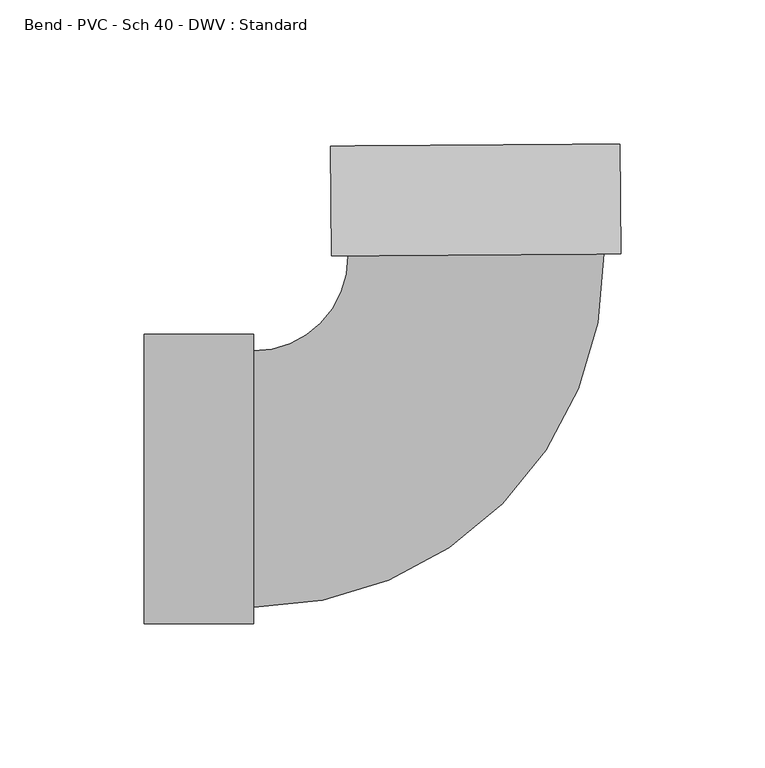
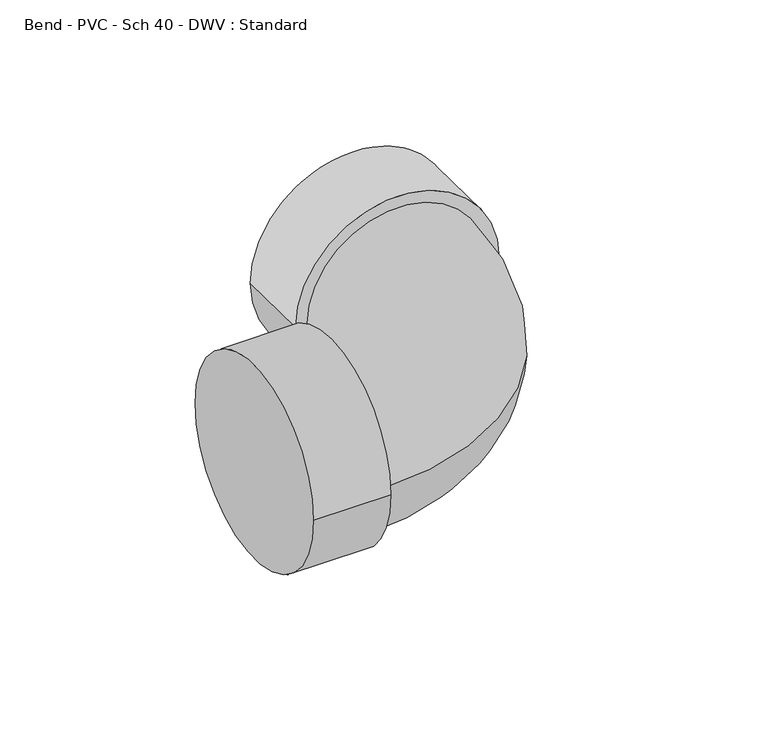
"""IFC4 building model written with IfcOpenShell, lengths in millimetres: pipe fitting geometry, Bend - PVC - Sch 40 - DWV : Standard."""

from ifc_helpers import new_model, si_unit, point, frame, origin, place, context, project, spatial, circle_curve, ellipse_curve, trimmed, source, transform, mapped, element, save
from ifc_brep_helpers import plane_surface, cylinder_surface, revolved_surface, advanced_brep


def bend_pvc_sch_40_dwv_standard_dc84db8a(model_context):
    return source(origin(), model_context, "Body", "AdvancedBrep", [
        advanced_brep(
        [(-115.9002, -50.2666, 0.0), (-115.9002, 50.2666, 0.0), (-77.8002, -50.2666, 0.0), (-77.8002, 50.2666, 0.0), (-77.8002, -44.45, 0.0), (-77.8002, 44.45, 0.0), (-45.0102782, 77.4774062, 0.0), (43.887407, 78.1189422, 0.0), (49.7038556, 78.160917, 0.0), (-50.8267267, 77.4354315, 0.0), (49.4289116, 116.2599249, 0.0), (-51.1016707, 115.5344394, 0.0)],
        [
            (0, 1, circle_curve(frame((-115.9002, 0.0, 0.0), z_axis=(-1.0, 0.0, 0.0), x_axis=(0.0, 1.0, 0.0)), 50.2666)),
            (1, 0, circle_curve(frame((-115.9002, 0.0, 0.0), z_axis=(-1.0, 0.0, 0.0), x_axis=(0.0, 1.0, 0.0)), 50.2666)),
            (2, 3, circle_curve(frame((-77.8002, 0.0, 0.0), z_axis=(1.0, 0.0, 0.0), x_axis=(0.0, 1.0, 0.0)), 50.2666)),
            (3, 2, circle_curve(frame((-77.8002, 0.0, 0.0), z_axis=(1.0, 0.0, 0.0), x_axis=(0.0, 1.0, 0.0)), 50.2666)),
            (4, 5, circle_curve(frame((-77.8002, 0.0, 0.0), z_axis=(-1.0, 0.0, 0.0), x_axis=(0.0, 1.0, 0.0)), 44.45)),
            (5, 4, circle_curve(frame((-77.8002, 0.0, 0.0), z_axis=(-1.0, 0.0, 0.0), x_axis=(0.0, 1.0, 0.0)), 44.45)),
            (0, 2),
            (3, 1),
            (6, 5, circle_curve(frame((-77.8002, 77.2407756, 0.0), z_axis=(0.0, 0.0, -1.0), x_axis=(0.0, -1.0, 0.0)), 32.7907756)),
            (4, 7, circle_curve(frame((-77.8002, 77.2407756, 0.0), z_axis=(0.0, 0.0, 1.0), x_axis=(0.0, -1.0, 0.0)), 121.6907756)),
            (7, 6, circle_curve(frame((-0.5614356, 77.7981742, 0.0), z_axis=(0.00721637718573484, -0.9999739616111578, 0.0), x_axis=(-0.9999739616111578, -0.00721637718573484, 0.0)), 44.45)),
            (6, 7, circle_curve(frame((-0.5614356, 77.7981742, 0.0), z_axis=(0.00721637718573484, -0.9999739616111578, 0.0), x_axis=(-0.9999739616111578, -0.00721637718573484, 0.0)), 44.45)),
            (8, 9, circle_curve(frame((-0.5614356, 77.7981742, 0.0), z_axis=(0.007216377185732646, -0.9999739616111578, 0.0), x_axis=(-0.9999739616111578, -0.007216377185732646, 0.0)), 50.2666)),
            (9, 8, circle_curve(frame((-0.5614356, 77.7981742, 0.0), z_axis=(0.007216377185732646, -0.9999739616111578, 0.0), x_axis=(-0.9999739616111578, -0.007216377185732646, 0.0)), 50.2666)),
            (10, 11, circle_curve(frame((-0.8363796, 115.8971821, 0.0), z_axis=(-0.007216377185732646, 0.9999739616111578, 0.0), x_axis=(-0.9999739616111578, -0.007216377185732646, 0.0)), 50.2666)),
            (11, 10, circle_curve(frame((-0.8363796, 115.8971821, 0.0), z_axis=(-0.007216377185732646, 0.9999739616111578, 0.0), x_axis=(-0.9999739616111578, -0.007216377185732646, 0.0)), 50.2666)),
            (8, 10),
            (11, 9),
        ],
        [
            plane_surface(frame((-115.9002, 0.0, 0.0), z_axis=(-1.0, 0.0, 0.0), x_axis=(0.0, 0.0, 1.0))),
            plane_surface(frame((-77.8002, 0.0, 0.0), z_axis=(1.0, 0.0, 0.0), x_axis=(0.0, 0.0, 1.0))),
            cylinder_surface(frame((-115.9002, 0.0, 0.0), z_axis=(-1.0, 0.0, 0.0), x_axis=(0.0, 1.0, 0.0)), 50.2666),
            revolved_surface(trimmed(ellipse_curve(frame((-77.8002, 0.0, 0.0), z_axis=(-1.0, 0.0, 0.0), x_axis=(0.0, 1.0, 0.0)), 44.45, 44.45), [point((-77.8002, -44.45, 0.0))], [point((-77.8002, 44.45, 0.0))], True, "CARTESIAN"), (-77.8002, 77.2407756, 0.0), (0.0, 0.0, 1.0)),
            revolved_surface(trimmed(ellipse_curve(frame((-77.8002, 0.0, 0.0), z_axis=(-1.0, 0.0, 0.0), x_axis=(0.0, 1.0, 0.0)), 44.45, 44.45), [point((-77.8002, 44.45, 0.0))], [point((-77.8002, -44.45, 0.0))], True, "CARTESIAN"), (-77.8002, 77.2407756, 0.0), (0.0, 0.0, 1.0)),
            plane_surface(frame((-0.5614356, 77.7981742, 0.0), z_axis=(0.007216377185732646, -0.9999739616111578, 0.0), x_axis=(0.0, 0.0, 1.0))),
            plane_surface(frame((-0.8363796, 115.8971821, 0.0), z_axis=(-0.007216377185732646, 0.9999739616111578, 0.0), x_axis=(0.0, 0.0, 1.0))),
            cylinder_surface(frame((-0.5614356, 77.7981742, 0.0), z_axis=(0.007216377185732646, -0.9999739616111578, 0.0), x_axis=(-0.9999739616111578, -0.007216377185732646, 0.0)), 50.2666),
        ],
        [
            (0, [[1, 2]]),
            (1, [[3, 4], [5, 6]]),
            (2, [[-1, 7, -4, 8]]),
            (2, [[-2, -8, -3, -7]]),
            (3, [[9, -5, 10, 11]]),
            (4, [[-9, 12, -10, -6]]),
            (5, [[13, 14], [-11, -12]]),
            (6, [[15, 16]]),
            (7, [[-13, 17, -16, 18]]),
            (7, [[-14, -18, -15, -17]]),
        ],
    ),
    ])


if __name__ == "__main__":
    model = new_model("IFC4")
    model_context = context("Model", 3, world=origin())
    ifc_project = project(units=[si_unit("LENGTHUNIT", "METRE", prefix="MILLI")], contexts=[model_context])
    site = spatial("IfcSite", under=ifc_project)
    building = spatial("IfcBuilding", under=site)
    placement = place(None, origin())
    bend_pvc_sch_40_dwv_standard_shape = bend_pvc_sch_40_dwv_standard_dc84db8a(model_context)
    element("IfcPipeFitting", 1, ObjectType="Bend - PVC - Sch 40 - DWV : Standard", at=placement, inside=building, context=model_context, shape_type="MappedRepresentation", body=[
        mapped(bend_pvc_sch_40_dwv_standard_shape, transform((0.0, 0.0, 0.0), x_axis=(1.0, 0.0, 0.0), y_axis=(0.0, 1.0, 0.0), z_axis=(0.0, 0.0, 1.0))),
    ])
    save(model, "model.ifc")
